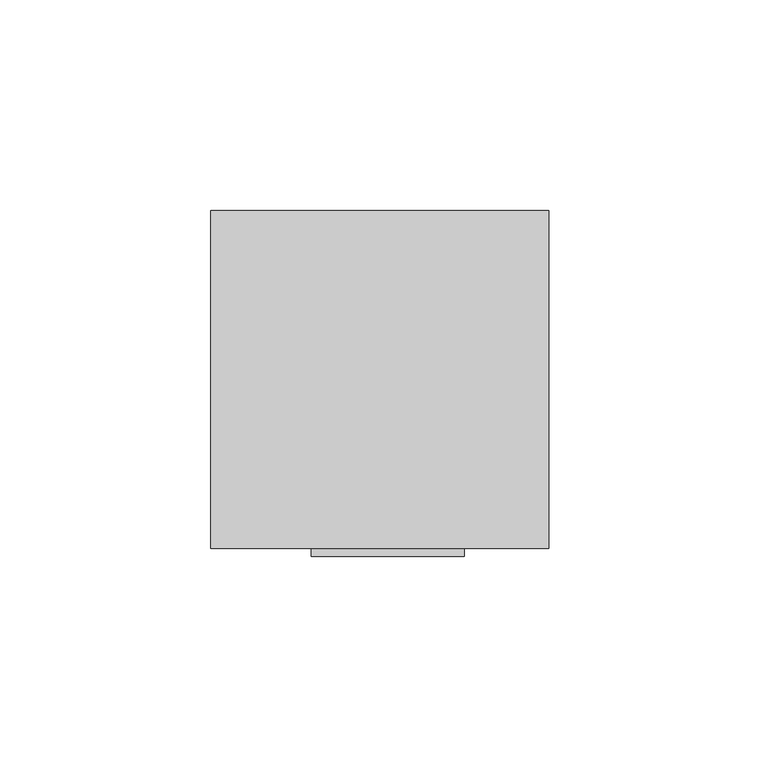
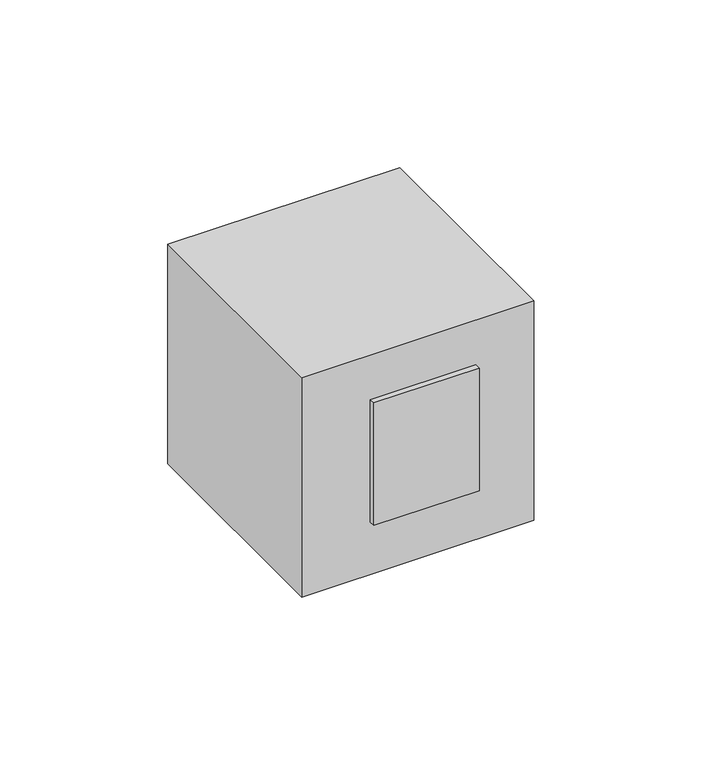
"""IFC4 building model written with IfcOpenShell, lengths in millimetres: proxy geometry, Schwachstromschalter : Schwachstromschalter."""

from ifc_helpers import new_model, si_unit, frame, origin, place, context, project, spatial, polyline, outline, extrude, source, transform, mapped, element, save


def electrical_equipment_b3faa87d(model_context):
    return source(origin(), model_context, "Body", "SweptSolid", [
        extrude(outline(polyline([(20.0, -42.0), (-16.2464232, -42.0), (-16.2464232, -40.0), (20.0, -40.0), (20.0, -42.0)])), frame((0.0, 0.0, 819.0344324), z_axis=(0.0, 0.0, 1.0), x_axis=(1.0, 0.0, 0.0)), (0.0, 0.0, 1.0), 44.6202224),
        extrude(outline(polyline([(40.0, -40.0), (-40.0, -40.0), (-40.0, 40.0), (40.0, 40.0), (40.0, -40.0)])), frame((0.0, 0.0, 800.0), z_axis=(0.0, 0.0, 1.0), x_axis=(1.0, 0.0, 0.0)), (0.0, 0.0, 1.0), 80.0),
    ])


if __name__ == "__main__":
    model = new_model("IFC4")
    model_context = context("Model", 3, world=origin())
    ifc_project = project(units=[si_unit("LENGTHUNIT", "METRE", prefix="MILLI")], contexts=[model_context])
    site = spatial("IfcSite", under=ifc_project)
    building = spatial("IfcBuilding", under=site)
    placement = place(None, origin())
    electrical_equipment_shape = electrical_equipment_b3faa87d(model_context)
    element("IfcBuildingElementProxy", 1, Name="Schwachstromschalter : Schwachstromschalter", ObjectType="Schwachstromschalter : Schwachstromschalter", at=placement, inside=building, context=model_context, shape_type="MappedRepresentation", body=[
        mapped(electrical_equipment_shape, transform((0.0, 0.0, 0.0), x_axis=(1.0, 0.0, 0.0), y_axis=(0.0, 1.0, 0.0), z_axis=(0.0, 0.0, 1.0))),
    ])
    save(model, "model.ifc")
